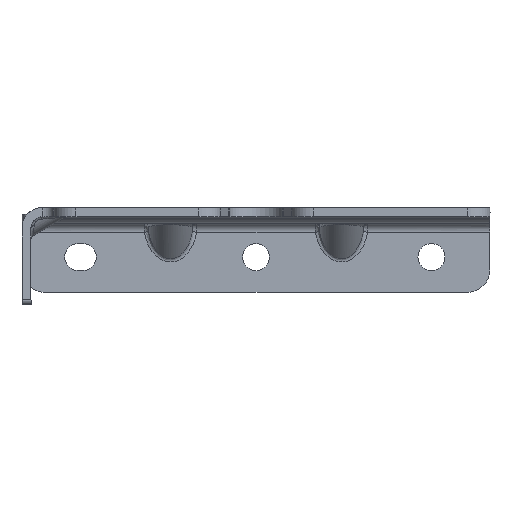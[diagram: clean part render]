
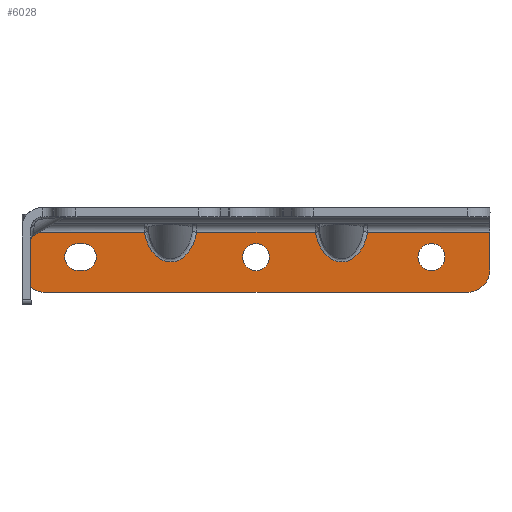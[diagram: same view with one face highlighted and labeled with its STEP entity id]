
A CAD part, left-side view. The second image highlights one B-rep face of the part: STEP entity #6028.
In plain terms, the highlighted planar face has unit normal (-1, 0, 0).
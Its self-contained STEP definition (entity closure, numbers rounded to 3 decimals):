
#5133=AXIS2_PLACEMENT_3D('Circle Axis2P3D',#5131,#5132,$) ;
#5362=AXIS2_PLACEMENT_3D('Circle Axis2P3D',#5360,#5361,$) ;
#5391=AXIS2_PLACEMENT_3D('Circle Axis2P3D',#5389,#5390,$) ;
#5417=AXIS2_PLACEMENT_3D('Circle Axis2P3D',#5415,#5416,$) ;
#5448=AXIS2_PLACEMENT_3D('Circle Axis2P3D',#5446,#5447,$) ;
#5486=AXIS2_PLACEMENT_3D('Circle Axis2P3D',#5484,#5485,$) ;
#5555=AXIS2_PLACEMENT_3D('Circle Axis2P3D',#5553,#5554,$) ;
#5968=AXIS2_PLACEMENT_3D('Circle Axis2P3D',#5966,#5967,$) ;
#5988=AXIS2_PLACEMENT_3D('Plane Axis2P3D',#5985,#5986,#5987) ;
#3211=CARTESIAN_POINT('Vertex',(2399.983,-399.309,519.644)) ;
#3423=CARTESIAN_POINT('Vertex',(2399.983,-437.309,519.644)) ;
#3556=CARTESIAN_POINT('Vertex',(2399.983,-425.677,519.644)) ;
#4928=CARTESIAN_POINT('Line Origine',(2399.983,412.493,519.644)) ;
#5056=CARTESIAN_POINT('Vertex',(2399.983,-387.677,519.644)) ;
#5060=CARTESIAN_POINT('Control Point',(2399.983,-387.677,519.644)) ;
#5061=CARTESIAN_POINT('Control Point',(2399.983,-387.81,518.879)) ;
#5062=CARTESIAN_POINT('Control Point',(2399.983,-388.005,518.124)) ;
#5063=CARTESIAN_POINT('Control Point',(2399.983,-388.264,517.387)) ;
#5064=CARTESIAN_POINT('Control Point',(2399.983,-388.814,516.196)) ;
#5065=CARTESIAN_POINT('Control Point',(2399.983,-389.582,515.126)) ;
#5066=CARTESIAN_POINT('Control Point',(2399.983,-389.928,514.722)) ;
#5067=CARTESIAN_POINT('Control Point',(2399.983,-390.745,513.944)) ;
#5068=CARTESIAN_POINT('Control Point',(2399.983,-391.738,513.382)) ;
#5069=CARTESIAN_POINT('Control Point',(2399.983,-392.309,513.166)) ;
#5070=CARTESIAN_POINT('Control Point',(2399.983,-393.626,512.932)) ;
#5071=CARTESIAN_POINT('Control Point',(2399.983,-394.941,513.224)) ;
#5072=CARTESIAN_POINT('Control Point',(2399.983,-395.599,513.534)) ;
#5073=CARTESIAN_POINT('Control Point',(2399.983,-397.192,514.635)) ;
#5074=CARTESIAN_POINT('Control Point',(2399.983,-398.269,516.252)) ;
#5075=CARTESIAN_POINT('Control Point',(2399.983,-398.761,517.341)) ;
#5076=CARTESIAN_POINT('Control Point',(2399.983,-399.106,518.481)) ;
#5077=CARTESIAN_POINT('Control Point',(2399.983,-399.309,519.644)) ;
#5091=CARTESIAN_POINT('Line Origine',(2399.983,-412.493,506.338)) ;
#5095=CARTESIAN_POINT('Vertex',(2399.983,-459.493,506.338)) ;
#5097=CARTESIAN_POINT('Vertex',(2399.983,-365.493,506.338)) ;
#5131=CARTESIAN_POINT('Axis2P3D Location',(2399.983,-459.493,511.338)) ;
#5135=CARTESIAN_POINT('Vertex',(2399.983,-464.493,511.338)) ;
#5171=CARTESIAN_POINT('Vertex',(2399.983,-464.493,519.644)) ;
#5174=CARTESIAN_POINT('Line Origine',(2399.983,-464.493,515.491)) ;
#5212=CARTESIAN_POINT('Line Origine',(2399.983,412.493,519.644)) ;
#5316=CARTESIAN_POINT('Control Point',(2399.983,-437.309,519.644)) ;
#5317=CARTESIAN_POINT('Control Point',(2399.983,-437.105,518.474)) ;
#5318=CARTESIAN_POINT('Control Point',(2399.983,-436.756,517.327)) ;
#5319=CARTESIAN_POINT('Control Point',(2399.983,-436.26,516.232)) ;
#5320=CARTESIAN_POINT('Control Point',(2399.983,-435.175,514.614)) ;
#5321=CARTESIAN_POINT('Control Point',(2399.983,-433.572,513.52)) ;
#5322=CARTESIAN_POINT('Control Point',(2399.983,-432.915,513.215)) ;
#5323=CARTESIAN_POINT('Control Point',(2399.983,-431.493,512.908)) ;
#5324=CARTESIAN_POINT('Control Point',(2399.983,-430.071,513.215)) ;
#5325=CARTESIAN_POINT('Control Point',(2399.983,-429.414,513.52)) ;
#5326=CARTESIAN_POINT('Control Point',(2399.983,-427.811,514.614)) ;
#5327=CARTESIAN_POINT('Control Point',(2399.983,-426.726,516.232)) ;
#5328=CARTESIAN_POINT('Control Point',(2399.983,-426.23,517.328)) ;
#5329=CARTESIAN_POINT('Control Point',(2399.983,-425.881,518.474)) ;
#5330=CARTESIAN_POINT('Control Point',(2399.983,-425.677,519.644)) ;
#5357=CARTESIAN_POINT('Vertex',(2399.983,-415.493,514.144)) ;
#5360=CARTESIAN_POINT('Axis2P3D Location',(2399.983,-412.493,514.144)) ;
#5364=CARTESIAN_POINT('Vertex',(2399.983,-409.493,514.144)) ;
#5389=CARTESIAN_POINT('Axis2P3D Location',(2399.983,-412.493,514.144)) ;
#5412=CARTESIAN_POINT('Vertex',(2399.983,-448.493,514.144)) ;
#5415=CARTESIAN_POINT('Axis2P3D Location',(2399.983,-451.493,514.144)) ;
#5419=CARTESIAN_POINT('Vertex',(2399.983,-454.493,514.144)) ;
#5446=CARTESIAN_POINT('Axis2P3D Location',(2399.983,-451.493,514.144)) ;
#5481=CARTESIAN_POINT('Vertex',(2399.983,-372.993,517.144)) ;
#5484=CARTESIAN_POINT('Axis2P3D Location',(2399.983,-372.993,514.144)) ;
#5488=CARTESIAN_POINT('Vertex',(2399.983,-372.993,511.144)) ;
#5519=CARTESIAN_POINT('Vertex',(2399.983,-373.993,517.144)) ;
#5522=CARTESIAN_POINT('Line Origine',(2399.983,-373.493,517.144)) ;
#5550=CARTESIAN_POINT('Vertex',(2399.983,-373.993,511.144)) ;
#5553=CARTESIAN_POINT('Axis2P3D Location',(2399.983,-373.993,514.144)) ;
#5575=CARTESIAN_POINT('Line Origine',(2399.983,-373.493,511.144)) ;
#5966=CARTESIAN_POINT('Axis2P3D Location',(2399.983,-365.493,511.338)) ;
#5970=CARTESIAN_POINT('Vertex',(2399.983,-360.493,511.338)) ;
#5985=CARTESIAN_POINT('Axis2P3D Location',(2399.983,412.493,519.644)) ;
#5990=CARTESIAN_POINT('Line Origine',(2399.983,-374.085,519.644)) ;
#5994=CARTESIAN_POINT('Vertex',(2399.983,-360.493,519.644)) ;
#5997=CARTESIAN_POINT('Line Origine',(2399.983,-360.493,515.491)) ;
#4929=DIRECTION('Vector Direction',(0.,1.,0.)) ;
#5092=DIRECTION('Vector Direction',(0.,-1.,0.)) ;
#5132=DIRECTION('Axis2P3D Direction',(-1.,0.,0.)) ;
#5175=DIRECTION('Vector Direction',(0.,0.,-1.)) ;
#5213=DIRECTION('Vector Direction',(0.,1.,0.)) ;
#5361=DIRECTION('Axis2P3D Direction',(1.,0.,-0.)) ;
#5390=DIRECTION('Axis2P3D Direction',(1.,0.,0.)) ;
#5416=DIRECTION('Axis2P3D Direction',(1.,0.,0.)) ;
#5447=DIRECTION('Axis2P3D Direction',(1.,0.,-0.)) ;
#5485=DIRECTION('Axis2P3D Direction',(1.,0.,0.)) ;
#5523=DIRECTION('Vector Direction',(0.,1.,0.)) ;
#5554=DIRECTION('Axis2P3D Direction',(1.,0.,0.)) ;
#5576=DIRECTION('Vector Direction',(0.,-1.,0.)) ;
#5967=DIRECTION('Axis2P3D Direction',(-1.,0.,0.)) ;
#5986=DIRECTION('Axis2P3D Direction',(-1.,0.,0.)) ;
#5987=DIRECTION('Axis2P3D XDirection',(-0.,0.,-1.)) ;
#5991=DIRECTION('Vector Direction',(0.,1.,0.)) ;
#5998=DIRECTION('Vector Direction',(0.,0.,-1.)) ;
#4930=VECTOR('Line Direction',#4929,1.) ;
#5093=VECTOR('Line Direction',#5092,1.) ;
#5176=VECTOR('Line Direction',#5175,1.) ;
#5214=VECTOR('Line Direction',#5213,1.) ;
#5524=VECTOR('Line Direction',#5523,1.) ;
#5577=VECTOR('Line Direction',#5576,1.) ;
#5992=VECTOR('Line Direction',#5991,1.) ;
#5999=VECTOR('Line Direction',#5998,1.) ;
#6003=ORIENTED_EDGE('',*,*,#4932,.T.) ;
#6004=ORIENTED_EDGE('',*,*,#5078,.F.) ;
#6005=ORIENTED_EDGE('',*,*,#5996,.T.) ;
#6006=ORIENTED_EDGE('',*,*,#6001,.T.) ;
#6007=ORIENTED_EDGE('',*,*,#5972,.F.) ;
#6008=ORIENTED_EDGE('',*,*,#5099,.F.) ;
#6009=ORIENTED_EDGE('',*,*,#5137,.F.) ;
#6010=ORIENTED_EDGE('',*,*,#5178,.F.) ;
#6011=ORIENTED_EDGE('',*,*,#5216,.T.) ;
#6012=ORIENTED_EDGE('',*,*,#5331,.T.) ;
#6015=ORIENTED_EDGE('',*,*,#5366,.F.) ;
#6016=ORIENTED_EDGE('',*,*,#5393,.F.) ;
#6019=ORIENTED_EDGE('',*,*,#5421,.T.) ;
#6020=ORIENTED_EDGE('',*,*,#5450,.T.) ;
#6023=ORIENTED_EDGE('',*,*,#5490,.F.) ;
#6024=ORIENTED_EDGE('',*,*,#5526,.F.) ;
#6025=ORIENTED_EDGE('',*,*,#5557,.F.) ;
#6026=ORIENTED_EDGE('',*,*,#5579,.F.) ;
#6017=FACE_BOUND('',#6014,.T.) ;
#6021=FACE_BOUND('',#6018,.T.) ;
#6027=FACE_BOUND('',#6022,.T.) ;
#6028=ADVANCED_FACE('\X2\96F64EF651E04F554F53\X0\',(#6013,#6017,#6021,#6027),#5989,.T.) ;
#5059=B_SPLINE_CURVE_WITH_KNOTS('',5,(#5060,#5061,#5062,#5063,#5064,#5065,#5066,#5067,#5068,#5069,#5070,#5071,#5072,#5073,#5074,#5075,#5076,#5077),.UNSPECIFIED.,.F.,.U.,(6,3,3,3,3,6),(9.648,13.378,15.875,18.643,21.928,27.601),.UNSPECIFIED.) ;
#5315=B_SPLINE_CURVE_WITH_KNOTS('',5,(#5316,#5317,#5318,#5319,#5320,#5321,#5322,#5323,#5324,#5325,#5326,#5327,#5328,#5329,#5330),.UNSPECIFIED.,.F.,.U.,(6,3,3,3,6),(9.648,15.37,18.649,21.928,27.651),.UNSPECIFIED.) ;
#5134=CIRCLE('generated circle',#5133,5.) ;
#5363=CIRCLE('generated circle',#5362,3.) ;
#5392=CIRCLE('generated circle',#5391,3.) ;
#5418=CIRCLE('generated circle',#5417,3.) ;
#5449=CIRCLE('generated circle',#5448,3.) ;
#5487=CIRCLE('generated circle',#5486,3.) ;
#5556=CIRCLE('generated circle',#5555,3.) ;
#5969=CIRCLE('generated circle',#5968,5.) ;
#4932=EDGE_CURVE('',#3557,#3212,#4931,.T.) ;
#5078=EDGE_CURVE('',#5057,#3212,#5059,.T.) ;
#5099=EDGE_CURVE('',#5096,#5098,#5094,.F.) ;
#5137=EDGE_CURVE('',#5136,#5096,#5134,.F.) ;
#5178=EDGE_CURVE('',#5172,#5136,#5177,.T.) ;
#5216=EDGE_CURVE('',#5172,#3424,#5215,.T.) ;
#5331=EDGE_CURVE('',#3424,#3557,#5315,.T.) ;
#5366=EDGE_CURVE('',#5358,#5365,#5363,.F.) ;
#5393=EDGE_CURVE('',#5365,#5358,#5392,.F.) ;
#5421=EDGE_CURVE('',#5420,#5413,#5418,.T.) ;
#5450=EDGE_CURVE('',#5413,#5420,#5449,.T.) ;
#5490=EDGE_CURVE('',#5482,#5489,#5487,.F.) ;
#5526=EDGE_CURVE('',#5520,#5482,#5525,.T.) ;
#5557=EDGE_CURVE('',#5551,#5520,#5556,.F.) ;
#5579=EDGE_CURVE('',#5489,#5551,#5578,.T.) ;
#5972=EDGE_CURVE('',#5098,#5971,#5969,.F.) ;
#5996=EDGE_CURVE('',#5057,#5995,#5993,.T.) ;
#6001=EDGE_CURVE('',#5995,#5971,#6000,.T.) ;
#6002=EDGE_LOOP('',(#6003,#6004,#6005,#6006,#6007,#6008,#6009,#6010,#6011,#6012)) ;
#6014=EDGE_LOOP('',(#6015,#6016)) ;
#6018=EDGE_LOOP('',(#6019,#6020)) ;
#6022=EDGE_LOOP('',(#6023,#6024,#6025,#6026)) ;
#6013=FACE_OUTER_BOUND('',#6002,.T.) ;
#4931=LINE('Line',#4928,#4930) ;
#5094=LINE('Line',#5091,#5093) ;
#5177=LINE('Line',#5174,#5176) ;
#5215=LINE('Line',#5212,#5214) ;
#5525=LINE('Line',#5522,#5524) ;
#5578=LINE('Line',#5575,#5577) ;
#5993=LINE('Line',#5990,#5992) ;
#6000=LINE('Line',#5997,#5999) ;
#5989=PLANE('Plane',#5988) ;
#3212=VERTEX_POINT('',#3211) ;
#3424=VERTEX_POINT('',#3423) ;
#3557=VERTEX_POINT('',#3556) ;
#5057=VERTEX_POINT('',#5056) ;
#5096=VERTEX_POINT('',#5095) ;
#5098=VERTEX_POINT('',#5097) ;
#5136=VERTEX_POINT('',#5135) ;
#5172=VERTEX_POINT('',#5171) ;
#5358=VERTEX_POINT('',#5357) ;
#5365=VERTEX_POINT('',#5364) ;
#5413=VERTEX_POINT('',#5412) ;
#5420=VERTEX_POINT('',#5419) ;
#5482=VERTEX_POINT('',#5481) ;
#5489=VERTEX_POINT('',#5488) ;
#5520=VERTEX_POINT('',#5519) ;
#5551=VERTEX_POINT('',#5550) ;
#5971=VERTEX_POINT('',#5970) ;
#5995=VERTEX_POINT('',#5994) ;
